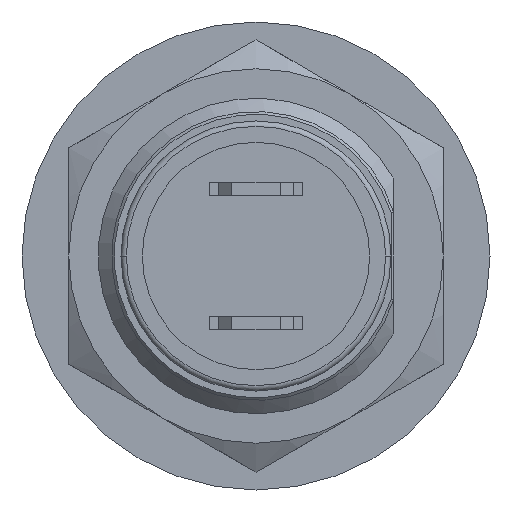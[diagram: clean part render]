
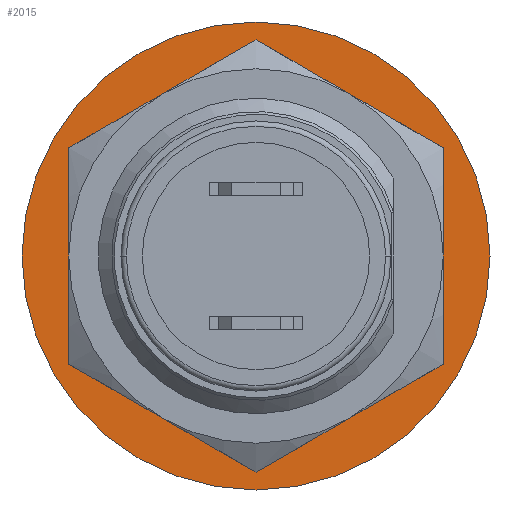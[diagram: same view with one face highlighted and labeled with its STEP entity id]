
A CAD part, front view. The second image highlights one B-rep face of the part: STEP entity #2015.
In plain terms, the highlighted planar face has unit normal (0, -1, 0).
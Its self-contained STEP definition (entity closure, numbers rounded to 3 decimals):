
#491=CARTESIAN_POINT('',(0.,16.9,0.));
#492=DIRECTION('',(0.,1.,0.));
#493=DIRECTION('',(0.889,0.,-0.458));
#494=AXIS2_PLACEMENT_3D('',#491,#492,#493);
#501=DIRECTION('',(0.,0.,-1.));
#502=VECTOR('',#501,6.185);
#503=CARTESIAN_POINT('',(6.,16.9,3.092));
#504=LINE('',#503,#502);
#505=CARTESIAN_POINT('',(0.,16.9,0.));
#506=DIRECTION('',(0.,-1.,0.));
#507=DIRECTION('',(1.,0.,0.));
#508=AXIS2_PLACEMENT_3D('',#505,#506,#507);
#518=CARTESIAN_POINT('',(0.,16.9,0.));
#519=DIRECTION('',(0.,1.,0.));
#520=DIRECTION('',(1.,0.,0.));
#521=AXIS2_PLACEMENT_3D('',#518,#519,#520);
#1200=CARTESIAN_POINT('',(8.75,16.9,0.));
#1202=VERTEX_POINT('',#1200);
#1208=CARTESIAN_POINT('',(-8.75,16.9,0.));
#1210=VERTEX_POINT('',#1208);
#1424=CARTESIAN_POINT('',(6.,16.9,-3.092));
#1425=CARTESIAN_POINT('',(6.,16.9,3.092));
#1426=VERTEX_POINT('',#1424);
#1427=VERTEX_POINT('',#1425);
#2000=CARTESIAN_POINT('',(0.,16.9,0.));
#2001=DIRECTION('',(0.,-1.,0.));
#2002=DIRECTION('',(-1.,0.,0.));
#2003=AXIS2_PLACEMENT_3D('',#2000,#2001,#2002);
#2004=PLANE('',#2003);
#2006=ORIENTED_EDGE('',*,*,#2005,.F.);
#2008=ORIENTED_EDGE('',*,*,#2007,.T.);
#2009=EDGE_LOOP('',(#2006,#2008));
#2010=FACE_OUTER_BOUND('',#2009,.F.);
#2011=ORIENTED_EDGE('',*,*,#1979,.F.);
#2012=ORIENTED_EDGE('',*,*,#1992,.F.);
#2013=EDGE_LOOP('',(#2011,#2012));
#2014=FACE_BOUND('',#2013,.F.);
#2015=ADVANCED_FACE('',(#2010,#2014),#2004,.T.);
#495=CIRCLE('',#494,6.75);
#509=CIRCLE('',#508,8.75);
#522=CIRCLE('',#521,8.75);
#1979=EDGE_CURVE('',#1427,#1426,#504,.T.);
#1992=EDGE_CURVE('',#1426,#1427,#495,.T.);
#2005=EDGE_CURVE('',#1202,#1210,#509,.T.);
#2007=EDGE_CURVE('',#1202,#1210,#522,.T.);
